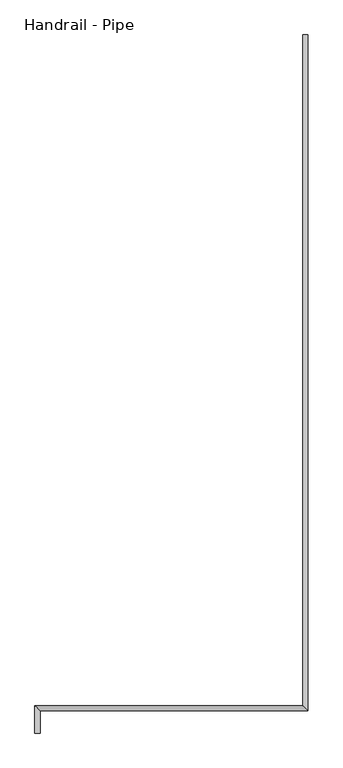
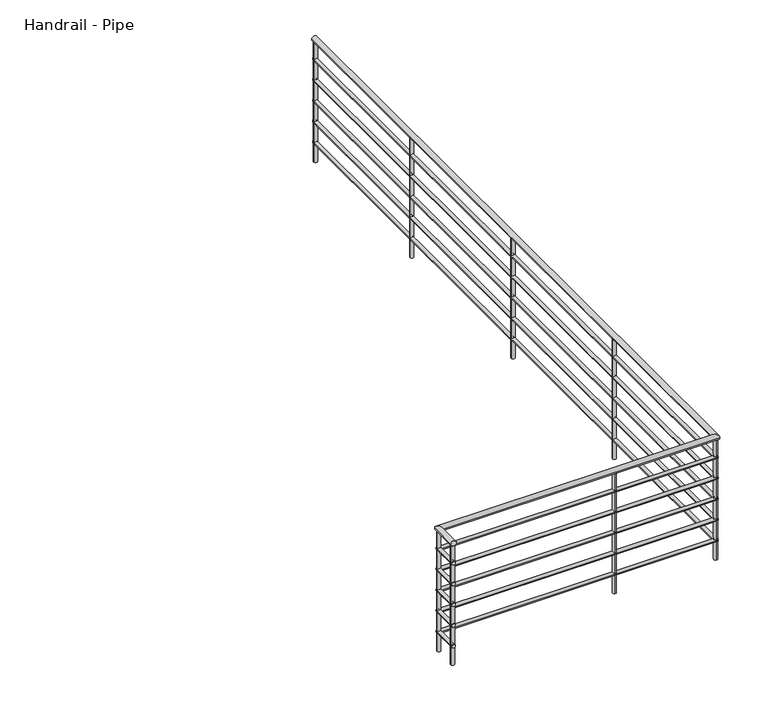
"""IFC4 building model written with IfcOpenShell, lengths in millimetres: railing geometry, Handrail - Pipe."""

from ifc_helpers import new_model, si_unit, point, frame, frame_2d, origin, origin_with_axes, place, context, project, spatial, circle_curve, ellipse_curve, trimmed, segment, composite_curve, outline, extrude, source, transform, mapped, element, save
from ifc_brep_helpers import plane_surface, cylinder_surface, advanced_brep


def handrail_pipe_807aec9c(model_context):
    return source(origin(), model_context, "Body", "SolidModel", [
        advanced_brep(
        [(13284.4921922, -6891.4887891, 895.35), (13322.5921922, -6891.4887891, 895.35), (13284.4921922, -6694.6387891, 895.35), (13322.5921922, -6732.7387891, 895.35), (15207.212245, -6694.6387891, 895.35), (15245.312245, -6732.7387891, 895.35), (15207.212245, -1886.1012891, 895.35), (15245.312245, -1886.1012891, 895.35)],
        [
            (0, 1, circle_curve(frame((13303.5421922, -6891.4887891, 895.35), z_axis=(0.0, -1.0, 0.0), x_axis=(1.0, 0.0, 0.0)), 19.05)),
            (1, 0, circle_curve(frame((13303.5421922, -6891.4887891, 895.35), z_axis=(0.0, -1.0, 0.0), x_axis=(1.0, 0.0, 0.0)), 19.05)),
            (0, 2),
            (2, 3, ellipse_curve(frame((13303.5421922, -6713.6887891, 895.35), z_axis=(-0.7071067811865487, -0.7071067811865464, 0.0), x_axis=(0.7071067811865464, -0.7071067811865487, 0.0)), 26.9407684, 19.05)),
            (3, 1),
            (3, 2, ellipse_curve(frame((13303.5421922, -6713.6887891, 895.35), z_axis=(-0.7071067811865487, -0.7071067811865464, 0.0), x_axis=(0.7071067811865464, -0.7071067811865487, 0.0)), 26.9407684, 19.05)),
            (2, 4),
            (4, 5, ellipse_curve(frame((15226.262245, -6713.6887891, 895.35), z_axis=(-0.7071067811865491, -0.7071067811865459, 0.0), x_axis=(-0.7071067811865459, 0.7071067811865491, 0.0)), 26.9407684, 19.05)),
            (5, 3),
            (5, 4, ellipse_curve(frame((15226.262245, -6713.6887891, 895.35), z_axis=(-0.7071067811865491, -0.7071067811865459, 0.0), x_axis=(-0.7071067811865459, 0.7071067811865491, 0.0)), 26.9407684, 19.05)),
            (6, 7, circle_curve(frame((15226.262245, -1886.1012891, 895.35), z_axis=(0.0, 1.0, 0.0), x_axis=(1.0, 0.0, 0.0)), 19.05)),
            (7, 6, circle_curve(frame((15226.262245, -1886.1012891, 895.35), z_axis=(0.0, 1.0, 0.0), x_axis=(1.0, 0.0, 0.0)), 19.05)),
            (4, 6),
            (7, 5),
        ],
        [
            plane_surface(frame((13303.5421922, -6891.4887891, 914.4), z_axis=(0.0, -1.0, 0.0), x_axis=(0.0, 0.0, 1.0))),
            cylinder_surface(frame((13303.5421922, -6891.4887891, 895.35), z_axis=(0.0, -1.0, 0.0), x_axis=(1.0, 0.0, 0.0)), 19.05),
            cylinder_surface(frame((13303.5421922, -6713.6887891, 895.35), z_axis=(-1.0, 0.0, 0.0), x_axis=(0.0, -1.0, 0.0)), 19.05),
            plane_surface(frame((15226.262245, -1886.1012891, 914.4), z_axis=(0.0, 1.0, 0.0), x_axis=(0.0, 0.0, 1.0))),
            cylinder_surface(frame((15226.262245, -6713.6887891, 895.35), z_axis=(0.0, -1.0, 0.0), x_axis=(1.0, 0.0, 0.0)), 19.05),
        ],
        [
            (0, [[1, 2]]),
            (1, [[-1, 3, 4, 5]]),
            (1, [[-2, -5, 6, -3]]),
            (2, [[-4, 7, 8, 9]]),
            (2, [[-6, -9, 10, -7]]),
            (3, [[11, 12]]),
            (4, [[-8, 13, -12, 14]]),
            (4, [[-10, -14, -11, -13]]),
        ],
    ),
        advanced_brep(
        [(13290.8421922, -6891.4887891, 749.3), (13316.2421922, -6891.4887891, 749.3), (13290.8421922, -6700.9887891, 749.3), (13316.2421922, -6726.3887891, 749.3), (15213.562245, -6700.9887891, 749.3), (15238.962245, -6726.3887891, 749.3), (15213.562245, -1886.1012891, 749.3), (15238.962245, -1886.1012891, 749.3)],
        [
            (0, 1, circle_curve(frame((13303.5421922, -6891.4887891, 749.3), z_axis=(0.0, -1.0, 0.0), x_axis=(1.0, 0.0, 0.0)), 12.7)),
            (1, 0, circle_curve(frame((13303.5421922, -6891.4887891, 749.3), z_axis=(0.0, -1.0, 0.0), x_axis=(1.0, 0.0, 0.0)), 12.7)),
            (0, 2),
            (2, 3, ellipse_curve(frame((13303.5421922, -6713.6887891, 749.3), z_axis=(-0.7071067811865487, -0.7071067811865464, 0.0), x_axis=(0.7071067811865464, -0.7071067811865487, 0.0)), 17.9605122, 12.7)),
            (3, 1),
            (3, 2, ellipse_curve(frame((13303.5421922, -6713.6887891, 749.3), z_axis=(-0.7071067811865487, -0.7071067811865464, 0.0), x_axis=(0.7071067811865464, -0.7071067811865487, 0.0)), 17.9605122, 12.7)),
            (2, 4),
            (4, 5, ellipse_curve(frame((15226.262245, -6713.6887891, 749.3), z_axis=(-0.7071067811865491, -0.7071067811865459, 0.0), x_axis=(-0.7071067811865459, 0.7071067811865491, 0.0)), 17.9605122, 12.7)),
            (5, 3),
            (5, 4, ellipse_curve(frame((15226.262245, -6713.6887891, 749.3), z_axis=(-0.7071067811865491, -0.7071067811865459, 0.0), x_axis=(-0.7071067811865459, 0.7071067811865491, 0.0)), 17.9605122, 12.7)),
            (6, 7, circle_curve(frame((15226.262245, -1886.1012891, 749.3), z_axis=(0.0, 1.0, 0.0), x_axis=(1.0, 0.0, 0.0)), 12.7)),
            (7, 6, circle_curve(frame((15226.262245, -1886.1012891, 749.3), z_axis=(0.0, 1.0, 0.0), x_axis=(1.0, 0.0, 0.0)), 12.7)),
            (4, 6),
            (7, 5),
        ],
        [
            plane_surface(frame((13303.5421922, -6891.4887891, 762.0), z_axis=(0.0, -1.0, 0.0), x_axis=(0.0, 0.0, 1.0))),
            cylinder_surface(frame((13303.5421922, -6891.4887891, 749.3), z_axis=(0.0, -1.0, 0.0), x_axis=(1.0, 0.0, 0.0)), 12.7),
            cylinder_surface(frame((13303.5421922, -6713.6887891, 749.3), z_axis=(-1.0, 0.0, 0.0), x_axis=(0.0, -1.0, 0.0)), 12.7),
            plane_surface(frame((15226.262245, -1886.1012891, 762.0), z_axis=(0.0, 1.0, 0.0), x_axis=(0.0, 0.0, 1.0))),
            cylinder_surface(frame((15226.262245, -6713.6887891, 749.3), z_axis=(0.0, -1.0, 0.0), x_axis=(1.0, 0.0, 0.0)), 12.7),
        ],
        [
            (0, [[1, 2]]),
            (1, [[-1, 3, 4, 5]]),
            (1, [[-2, -5, 6, -3]]),
            (2, [[-4, 7, 8, 9]]),
            (2, [[-6, -9, 10, -7]]),
            (3, [[11, 12]]),
            (4, [[-8, 13, -12, 14]]),
            (4, [[-10, -14, -11, -13]]),
        ],
    ),
        advanced_brep(
        [(13290.8421922, -6891.4887891, 596.9), (13316.2421922, -6891.4887891, 596.9), (13290.8421922, -6700.9887891, 596.9), (13316.2421922, -6726.3887891, 596.9), (15213.562245, -6700.9887891, 596.9), (15238.962245, -6726.3887891, 596.9), (15213.562245, -1886.1012891, 596.9), (15238.962245, -1886.1012891, 596.9)],
        [
            (0, 1, circle_curve(frame((13303.5421922, -6891.4887891, 596.9), z_axis=(0.0, -1.0, 0.0), x_axis=(1.0, 0.0, 0.0)), 12.7)),
            (1, 0, circle_curve(frame((13303.5421922, -6891.4887891, 596.9), z_axis=(0.0, -1.0, 0.0), x_axis=(1.0, 0.0, 0.0)), 12.7)),
            (0, 2),
            (2, 3, ellipse_curve(frame((13303.5421922, -6713.6887891, 596.9), z_axis=(-0.7071067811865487, -0.7071067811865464, 0.0), x_axis=(0.7071067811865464, -0.7071067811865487, 0.0)), 17.9605122, 12.7)),
            (3, 1),
            (3, 2, ellipse_curve(frame((13303.5421922, -6713.6887891, 596.9), z_axis=(-0.7071067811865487, -0.7071067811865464, 0.0), x_axis=(0.7071067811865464, -0.7071067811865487, 0.0)), 17.9605122, 12.7)),
            (2, 4),
            (4, 5, ellipse_curve(frame((15226.262245, -6713.6887891, 596.9), z_axis=(-0.7071067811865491, -0.7071067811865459, 0.0), x_axis=(-0.7071067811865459, 0.7071067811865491, 0.0)), 17.9605122, 12.7)),
            (5, 3),
            (5, 4, ellipse_curve(frame((15226.262245, -6713.6887891, 596.9), z_axis=(-0.7071067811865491, -0.7071067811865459, 0.0), x_axis=(-0.7071067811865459, 0.7071067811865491, 0.0)), 17.9605122, 12.7)),
            (6, 7, circle_curve(frame((15226.262245, -1886.1012891, 596.9), z_axis=(0.0, 1.0, 0.0), x_axis=(1.0, 0.0, 0.0)), 12.7)),
            (7, 6, circle_curve(frame((15226.262245, -1886.1012891, 596.9), z_axis=(0.0, 1.0, 0.0), x_axis=(1.0, 0.0, 0.0)), 12.7)),
            (4, 6),
            (7, 5),
        ],
        [
            plane_surface(frame((13303.5421922, -6891.4887891, 609.6), z_axis=(0.0, -1.0, 0.0), x_axis=(0.0, 0.0, 1.0))),
            cylinder_surface(frame((13303.5421922, -6891.4887891, 596.9), z_axis=(0.0, -1.0, 0.0), x_axis=(1.0, 0.0, 0.0)), 12.7),
            cylinder_surface(frame((13303.5421922, -6713.6887891, 596.9), z_axis=(-1.0, 0.0, 0.0), x_axis=(0.0, -1.0, 0.0)), 12.7),
            plane_surface(frame((15226.262245, -1886.1012891, 609.6), z_axis=(0.0, 1.0, 0.0), x_axis=(0.0, 0.0, 1.0))),
            cylinder_surface(frame((15226.262245, -6713.6887891, 596.9), z_axis=(0.0, -1.0, 0.0), x_axis=(1.0, 0.0, 0.0)), 12.7),
        ],
        [
            (0, [[1, 2]]),
            (1, [[-1, 3, 4, 5]]),
            (1, [[-2, -5, 6, -3]]),
            (2, [[-4, 7, 8, 9]]),
            (2, [[-6, -9, 10, -7]]),
            (3, [[11, 12]]),
            (4, [[-8, 13, -12, 14]]),
            (4, [[-10, -14, -11, -13]]),
        ],
    ),
        advanced_brep(
        [(13290.8421922, -6891.4887891, 444.5), (13316.2421922, -6891.4887891, 444.5), (13290.8421922, -6700.9887891, 444.5), (13316.2421922, -6726.3887891, 444.5), (15213.562245, -6700.9887891, 444.5), (15238.962245, -6726.3887891, 444.5), (15213.562245, -1886.1012891, 444.5), (15238.962245, -1886.1012891, 444.5)],
        [
            (0, 1, circle_curve(frame((13303.5421922, -6891.4887891, 444.5), z_axis=(0.0, -1.0, 0.0), x_axis=(1.0, 0.0, 0.0)), 12.7)),
            (1, 0, circle_curve(frame((13303.5421922, -6891.4887891, 444.5), z_axis=(0.0, -1.0, 0.0), x_axis=(1.0, 0.0, 0.0)), 12.7)),
            (0, 2),
            (2, 3, ellipse_curve(frame((13303.5421922, -6713.6887891, 444.5), z_axis=(-0.7071067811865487, -0.7071067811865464, 0.0), x_axis=(0.7071067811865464, -0.7071067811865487, 0.0)), 17.9605122, 12.7)),
            (3, 1),
            (3, 2, ellipse_curve(frame((13303.5421922, -6713.6887891, 444.5), z_axis=(-0.7071067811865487, -0.7071067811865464, 0.0), x_axis=(0.7071067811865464, -0.7071067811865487, 0.0)), 17.9605122, 12.7)),
            (2, 4),
            (4, 5, ellipse_curve(frame((15226.262245, -6713.6887891, 444.5), z_axis=(-0.7071067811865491, -0.7071067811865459, 0.0), x_axis=(-0.7071067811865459, 0.7071067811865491, 0.0)), 17.9605122, 12.7)),
            (5, 3),
            (5, 4, ellipse_curve(frame((15226.262245, -6713.6887891, 444.5), z_axis=(-0.7071067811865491, -0.7071067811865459, 0.0), x_axis=(-0.7071067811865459, 0.7071067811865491, 0.0)), 17.9605122, 12.7)),
            (6, 7, circle_curve(frame((15226.262245, -1886.1012891, 444.5), z_axis=(0.0, 1.0, 0.0), x_axis=(1.0, 0.0, 0.0)), 12.7)),
            (7, 6, circle_curve(frame((15226.262245, -1886.1012891, 444.5), z_axis=(0.0, 1.0, 0.0), x_axis=(1.0, 0.0, 0.0)), 12.7)),
            (4, 6),
            (7, 5),
        ],
        [
            plane_surface(frame((13303.5421922, -6891.4887891, 457.2), z_axis=(0.0, -1.0, 0.0), x_axis=(0.0, 0.0, 1.0))),
            cylinder_surface(frame((13303.5421922, -6891.4887891, 444.5), z_axis=(0.0, -1.0, 0.0), x_axis=(1.0, 0.0, 0.0)), 12.7),
            cylinder_surface(frame((13303.5421922, -6713.6887891, 444.5), z_axis=(-1.0, 0.0, 0.0), x_axis=(0.0, -1.0, 0.0)), 12.7),
            plane_surface(frame((15226.262245, -1886.1012891, 457.2), z_axis=(0.0, 1.0, 0.0), x_axis=(0.0, 0.0, 1.0))),
            cylinder_surface(frame((15226.262245, -6713.6887891, 444.5), z_axis=(0.0, -1.0, 0.0), x_axis=(1.0, 0.0, 0.0)), 12.7),
        ],
        [
            (0, [[1, 2]]),
            (1, [[-1, 3, 4, 5]]),
            (1, [[-2, -5, 6, -3]]),
            (2, [[-4, 7, 8, 9]]),
            (2, [[-6, -9, 10, -7]]),
            (3, [[11, 12]]),
            (4, [[-8, 13, -12, 14]]),
            (4, [[-10, -14, -11, -13]]),
        ],
    ),
        advanced_brep(
        [(13290.8421922, -6891.4887891, 292.1), (13316.2421922, -6891.4887891, 292.1), (13290.8421922, -6700.9887891, 292.1), (13316.2421922, -6726.3887891, 292.1), (15213.562245, -6700.9887891, 292.1), (15238.962245, -6726.3887891, 292.1), (15213.562245, -1886.1012891, 292.1), (15238.962245, -1886.1012891, 292.1)],
        [
            (0, 1, circle_curve(frame((13303.5421922, -6891.4887891, 292.1), z_axis=(0.0, -1.0, 0.0), x_axis=(1.0, 0.0, 0.0)), 12.7)),
            (1, 0, circle_curve(frame((13303.5421922, -6891.4887891, 292.1), z_axis=(0.0, -1.0, 0.0), x_axis=(1.0, 0.0, 0.0)), 12.7)),
            (0, 2),
            (2, 3, ellipse_curve(frame((13303.5421922, -6713.6887891, 292.1), z_axis=(-0.7071067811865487, -0.7071067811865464, 0.0), x_axis=(0.7071067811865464, -0.7071067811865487, 0.0)), 17.9605122, 12.7)),
            (3, 1),
            (3, 2, ellipse_curve(frame((13303.5421922, -6713.6887891, 292.1), z_axis=(-0.7071067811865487, -0.7071067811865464, 0.0), x_axis=(0.7071067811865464, -0.7071067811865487, 0.0)), 17.9605122, 12.7)),
            (2, 4),
            (4, 5, ellipse_curve(frame((15226.262245, -6713.6887891, 292.1), z_axis=(-0.7071067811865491, -0.7071067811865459, 0.0), x_axis=(-0.7071067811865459, 0.7071067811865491, 0.0)), 17.9605122, 12.7)),
            (5, 3),
            (5, 4, ellipse_curve(frame((15226.262245, -6713.6887891, 292.1), z_axis=(-0.7071067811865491, -0.7071067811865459, 0.0), x_axis=(-0.7071067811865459, 0.7071067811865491, 0.0)), 17.9605122, 12.7)),
            (6, 7, circle_curve(frame((15226.262245, -1886.1012891, 292.1), z_axis=(0.0, 1.0, 0.0), x_axis=(1.0, 0.0, 0.0)), 12.7)),
            (7, 6, circle_curve(frame((15226.262245, -1886.1012891, 292.1), z_axis=(0.0, 1.0, 0.0), x_axis=(1.0, 0.0, 0.0)), 12.7)),
            (4, 6),
            (7, 5),
        ],
        [
            plane_surface(frame((13303.5421922, -6891.4887891, 304.8), z_axis=(0.0, -1.0, 0.0), x_axis=(0.0, 0.0, 1.0))),
            cylinder_surface(frame((13303.5421922, -6891.4887891, 292.1), z_axis=(0.0, -1.0, 0.0), x_axis=(1.0, 0.0, 0.0)), 12.7),
            cylinder_surface(frame((13303.5421922, -6713.6887891, 292.1), z_axis=(-1.0, 0.0, 0.0), x_axis=(0.0, -1.0, 0.0)), 12.7),
            plane_surface(frame((15226.262245, -1886.1012891, 304.8), z_axis=(0.0, 1.0, 0.0), x_axis=(0.0, 0.0, 1.0))),
            cylinder_surface(frame((15226.262245, -6713.6887891, 292.1), z_axis=(0.0, -1.0, 0.0), x_axis=(1.0, 0.0, 0.0)), 12.7),
        ],
        [
            (0, [[1, 2]]),
            (1, [[-1, 3, 4, 5]]),
            (1, [[-2, -5, 6, -3]]),
            (2, [[-4, 7, 8, 9]]),
            (2, [[-6, -9, 10, -7]]),
            (3, [[11, 12]]),
            (4, [[-8, 13, -12, 14]]),
            (4, [[-10, -14, -11, -13]]),
        ],
    ),
        advanced_brep(
        [(13290.8421922, -6891.4887891, 139.7), (13316.2421922, -6891.4887891, 139.7), (13290.8421922, -6700.9887891, 139.7), (13316.2421922, -6726.3887891, 139.7), (15213.562245, -6700.9887891, 139.7), (15238.962245, -6726.3887891, 139.7), (15213.562245, -1886.1012891, 139.7), (15238.962245, -1886.1012891, 139.7)],
        [
            (0, 1, circle_curve(frame((13303.5421922, -6891.4887891, 139.7), z_axis=(0.0, -1.0, 0.0), x_axis=(1.0, 0.0, 0.0)), 12.7)),
            (1, 0, circle_curve(frame((13303.5421922, -6891.4887891, 139.7), z_axis=(0.0, -1.0, 0.0), x_axis=(1.0, 0.0, 0.0)), 12.7)),
            (0, 2),
            (2, 3, ellipse_curve(frame((13303.5421922, -6713.6887891, 139.7), z_axis=(-0.7071067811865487, -0.7071067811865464, 0.0), x_axis=(0.7071067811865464, -0.7071067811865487, 0.0)), 17.9605122, 12.7)),
            (3, 1),
            (3, 2, ellipse_curve(frame((13303.5421922, -6713.6887891, 139.7), z_axis=(-0.7071067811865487, -0.7071067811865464, 0.0), x_axis=(0.7071067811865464, -0.7071067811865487, 0.0)), 17.9605122, 12.7)),
            (2, 4),
            (4, 5, ellipse_curve(frame((15226.262245, -6713.6887891, 139.7), z_axis=(-0.7071067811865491, -0.7071067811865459, 0.0), x_axis=(-0.7071067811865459, 0.7071067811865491, 0.0)), 17.9605122, 12.7)),
            (5, 3),
            (5, 4, ellipse_curve(frame((15226.262245, -6713.6887891, 139.7), z_axis=(-0.7071067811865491, -0.7071067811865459, 0.0), x_axis=(-0.7071067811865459, 0.7071067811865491, 0.0)), 17.9605122, 12.7)),
            (6, 7, circle_curve(frame((15226.262245, -1886.1012891, 139.7), z_axis=(0.0, 1.0, 0.0), x_axis=(1.0, 0.0, 0.0)), 12.7)),
            (7, 6, circle_curve(frame((15226.262245, -1886.1012891, 139.7), z_axis=(0.0, 1.0, 0.0), x_axis=(1.0, 0.0, 0.0)), 12.7)),
            (4, 6),
            (7, 5),
        ],
        [
            plane_surface(frame((13303.5421922, -6891.4887891, 152.4), z_axis=(0.0, -1.0, 0.0), x_axis=(0.0, 0.0, 1.0))),
            cylinder_surface(frame((13303.5421922, -6891.4887891, 139.7), z_axis=(0.0, -1.0, 0.0), x_axis=(1.0, 0.0, 0.0)), 12.7),
            cylinder_surface(frame((13303.5421922, -6713.6887891, 139.7), z_axis=(-1.0, 0.0, 0.0), x_axis=(0.0, -1.0, 0.0)), 12.7),
            plane_surface(frame((15226.262245, -1886.1012891, 152.4), z_axis=(0.0, 1.0, 0.0), x_axis=(0.0, 0.0, 1.0))),
            cylinder_surface(frame((15226.262245, -6713.6887891, 139.7), z_axis=(0.0, -1.0, 0.0), x_axis=(1.0, 0.0, 0.0)), 12.7),
        ],
        [
            (0, [[1, 2]]),
            (1, [[-1, 3, 4, 5]]),
            (1, [[-2, -5, 6, -3]]),
            (2, [[-4, 7, 8, 9]]),
            (2, [[-6, -9, 10, -7]]),
            (3, [[11, 12]]),
            (4, [[-8, 13, -12, 14]]),
            (4, [[-10, -14, -11, -13]]),
        ],
    ),
        extrude(outline(composite_curve([segment(trimmed(circle_curve(frame_2d((15226.262245, -3056.0887891)), 12.7), [point((15213.562245, -3056.0887891))], [point((15238.962245, -3056.0887891))], False, "CARTESIAN"), True, "CONTINUOUS"), segment(trimmed(circle_curve(frame_2d((15226.262245, -3056.0887891)), 12.7), [point((15238.962245, -3056.0887891))], [point((15213.562245, -3056.0887891))], False, "CARTESIAN"), True, "CONTINUOUS")], self_intersect=False)), origin_with_axes(), (0.0, 0.0, 1.0), 876.3),
        extrude(outline(composite_curve([segment(trimmed(circle_curve(frame_2d((15226.262245, -4275.2887891)), 12.7), [point((15213.562245, -4275.2887891))], [point((15238.962245, -4275.2887891))], False, "CARTESIAN"), True, "CONTINUOUS"), segment(trimmed(circle_curve(frame_2d((15226.262245, -4275.2887891)), 12.7), [point((15238.962245, -4275.2887891))], [point((15213.562245, -4275.2887891))], False, "CARTESIAN"), True, "CONTINUOUS")], self_intersect=False)), origin_with_axes(), (0.0, 0.0, 1.0), 876.3),
        extrude(outline(composite_curve([segment(trimmed(circle_curve(frame_2d((15226.262245, -5494.4887891)), 12.7), [point((15213.562245, -5494.4887891))], [point((15238.962245, -5494.4887891))], False, "CARTESIAN"), True, "CONTINUOUS"), segment(trimmed(circle_curve(frame_2d((15226.262245, -5494.4887891)), 12.7), [point((15238.962245, -5494.4887891))], [point((15213.562245, -5494.4887891))], False, "CARTESIAN"), True, "CONTINUOUS")], self_intersect=False)), origin_with_axes(), (0.0, 0.0, 1.0), 876.3),
        extrude(outline(composite_curve([segment(trimmed(circle_curve(frame_2d((14522.7421922, -6713.6887891)), 12.7), [point((14522.7421922, -6700.9887891))], [point((14522.7421922, -6726.3887891))], False, "CARTESIAN"), True, "CONTINUOUS"), segment(trimmed(circle_curve(frame_2d((14522.7421922, -6713.6887891)), 12.7), [point((14522.7421922, -6726.3887891))], [point((14522.7421922, -6700.9887891))], False, "CARTESIAN"), True, "CONTINUOUS")], self_intersect=False)), origin_with_axes(), (0.0, 0.0, 1.0), 876.3),
        extrude(outline(composite_curve([segment(trimmed(circle_curve(frame_2d((15226.262245, -6713.6887891)), 12.7), [point((15226.262245, -6700.9887891))], [point((15226.262245, -6726.3887891))], False, "CARTESIAN"), True, "CONTINUOUS"), segment(trimmed(circle_curve(frame_2d((15226.262245, -6713.6887891)), 12.7), [point((15226.262245, -6726.3887891))], [point((15226.262245, -6700.9887891))], False, "CARTESIAN"), True, "CONTINUOUS")], self_intersect=False)), origin_with_axes(), (0.0, 0.0, 1.0), 876.3),
        extrude(outline(composite_curve([segment(trimmed(circle_curve(frame_2d((13303.5421922, -6713.6887891)), 12.7), [point((13290.8421922, -6713.6887891))], [point((13316.2421922, -6713.6887891))], False, "CARTESIAN"), True, "CONTINUOUS"), segment(trimmed(circle_curve(frame_2d((13303.5421922, -6713.6887891)), 12.7), [point((13316.2421922, -6713.6887891))], [point((13290.8421922, -6713.6887891))], False, "CARTESIAN"), True, "CONTINUOUS")], self_intersect=False)), origin_with_axes(), (0.0, 0.0, 1.0), 876.3),
        extrude(outline(composite_curve([segment(trimmed(circle_curve(frame_2d((15226.262245, -1898.8012891)), 12.7), [point((15213.562245, -1898.8012891))], [point((15238.962245, -1898.8012891))], False, "CARTESIAN"), True, "CONTINUOUS"), segment(trimmed(circle_curve(frame_2d((15226.262245, -1898.8012891)), 12.7), [point((15238.962245, -1898.8012891))], [point((15213.562245, -1898.8012891))], False, "CARTESIAN"), True, "CONTINUOUS")], self_intersect=False)), origin_with_axes(), (0.0, 0.0, 1.0), 876.3),
        extrude(outline(composite_curve([segment(trimmed(circle_curve(frame_2d((13303.5421922, -6878.7887891)), 12.7), [point((13290.8421922, -6878.7887891))], [point((13316.2421922, -6878.7887891))], False, "CARTESIAN"), True, "CONTINUOUS"), segment(trimmed(circle_curve(frame_2d((13303.5421922, -6878.7887891)), 12.7), [point((13316.2421922, -6878.7887891))], [point((13290.8421922, -6878.7887891))], False, "CARTESIAN"), True, "CONTINUOUS")], self_intersect=False)), origin_with_axes(), (0.0, 0.0, 1.0), 876.3),
    ])


if __name__ == "__main__":
    model = new_model("IFC4")
    model_context = context("Model", 3, world=origin())
    ifc_project = project(units=[si_unit("LENGTHUNIT", "METRE", prefix="MILLI")], contexts=[model_context])
    site = spatial("IfcSite", under=ifc_project)
    building = spatial("IfcBuilding", under=site)
    placement = place(None, origin())
    handrail_pipe_shape = handrail_pipe_807aec9c(model_context)
    element("IfcRailing", 1, ObjectType="Handrail - Pipe", at=placement, inside=building, context=model_context, shape_type="MappedRepresentation", body=[
        mapped(handrail_pipe_shape, transform((0.0, 0.0, 0.0), x_axis=(1.0, 0.0, 0.0), y_axis=(0.0, 1.0, 0.0), z_axis=(0.0, 0.0, 1.0))),
    ])
    save(model, "model.ifc")
